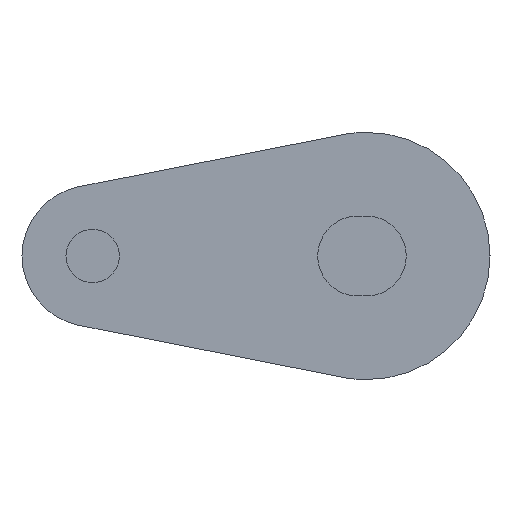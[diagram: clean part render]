
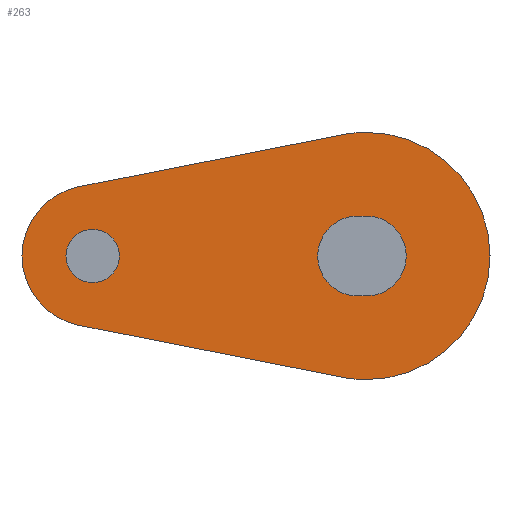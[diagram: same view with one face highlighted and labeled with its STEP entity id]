
A CAD part, left-side view. The second image highlights one B-rep face of the part: STEP entity #263.
In plain terms, the highlighted planar face has unit normal (-1, 0, 0).
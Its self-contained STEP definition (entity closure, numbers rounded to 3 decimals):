
#13 = CARTESIAN_POINT ( 'NONE',  ( -279.5, 0., 0. ) ) ;
#27 = CARTESIAN_POINT ( 'NONE',  ( -279.5, 16.274, 3.924 ) ) ;
#33 = CARTESIAN_POINT ( 'NONE',  ( -279.5, 0., 0. ) ) ;
#43 = DIRECTION ( 'NONE',  ( 0., 0., -1. ) ) ;
#45 = DIRECTION ( 'NONE',  ( 1., 0., 0. ) ) ;
#46 = CARTESIAN_POINT ( 'NONE',  ( -279.5, 0., 0. ) ) ;
#47 = DIRECTION ( 'NONE',  ( 0., 0.981, 0.194 ) ) ;
#50 = DIRECTION ( 'NONE',  ( 0., 0., -1. ) ) ;
#51 = DIRECTION ( 'NONE',  ( 1., 0., 0. ) ) ;
#71 = AXIS2_PLACEMENT_3D ( 'NONE', #500, #1031, #1032 ) ;
#81 = EDGE_CURVE ( 'NONE', #553, #570, #922, .T. ) ;
#82 = AXIS2_PLACEMENT_3D ( 'NONE', #781, #784, #783 ) ;
#83 = AXIS2_PLACEMENT_3D ( 'NONE', #13, #788, #787 ) ;
#88 = AXIS2_PLACEMENT_3D ( 'NONE', #580, #581, #582 ) ;
#110 = EDGE_CURVE ( 'NONE', #567, #618, #932, .T. ) ;
#111 = EDGE_CURVE ( 'NONE', #618, #555, #933, .T. ) ;
#113 = EDGE_CURVE ( 'NONE', #570, #567, #938, .T. ) ;
#126 = AXIS2_PLACEMENT_3D ( 'NONE', #46, #45, #43 ) ;
#144 = EDGE_CURVE ( 'NONE', #578, #598, #969, .T. ) ;
#173 = AXIS2_PLACEMENT_3D ( 'NONE', #754, #751, #752 ) ;
#177 = AXIS2_PLACEMENT_3D ( 'NONE', #1037, #1042, #1029 ) ;
#187 = AXIS2_PLACEMENT_3D ( 'NONE', #1060, #1048, #1047 ) ;
#196 = AXIS2_PLACEMENT_3D ( 'NONE', #33, #51, #50 ) ;
#202 = EDGE_CURVE ( 'NONE', #554, #553, #1000, .T. ) ;
#209 = EDGE_CURVE ( 'NONE', #599, #601, #1011, .T. ) ;
#210 = EDGE_CURVE ( 'NONE', #576, #575, #1012, .T. ) ;
#220 = EDGE_CURVE ( 'NONE', #598, #599, #1008, .T. ) ;
#227 = EDGE_CURVE ( 'NONE', #601, #578, #1021, .T. ) ;
#230 = EDGE_CURVE ( 'NONE', #555, #554, #881, .T. ) ;
#232 = EDGE_CURVE ( 'NONE', #575, #576, #892, .T. ) ;
#263 = ADVANCED_FACE ( 'NONE', ( #840, #844, #843 ), #758, .T. ) ;
#300 = ORIENTED_EDGE ( 'NONE', *, *, #81, .F. ) ;
#301 = ORIENTED_EDGE ( 'NONE', *, *, #202, .F. ) ;
#350 = EDGE_LOOP ( 'NONE', ( #408, #488 ) ) ;
#351 = EDGE_LOOP ( 'NONE', ( #411, #412, #413, #472 ) ) ;
#355 = EDGE_LOOP ( 'NONE', ( #416, #448, #390, #392, #300, #301 ) ) ;
#390 = ORIENTED_EDGE ( 'NONE', *, *, #110, .F. ) ;
#392 = ORIENTED_EDGE ( 'NONE', *, *, #113, .F. ) ;
#408 = ORIENTED_EDGE ( 'NONE', *, *, #210, .T. ) ;
#411 = ORIENTED_EDGE ( 'NONE', *, *, #144, .T. ) ;
#412 = ORIENTED_EDGE ( 'NONE', *, *, #220, .T. ) ;
#413 = ORIENTED_EDGE ( 'NONE', *, *, #209, .T. ) ;
#416 = ORIENTED_EDGE ( 'NONE', *, *, #230, .F. ) ;
#448 = ORIENTED_EDGE ( 'NONE', *, *, #111, .F. ) ;
#472 = ORIENTED_EDGE ( 'NONE', *, *, #227, .T. ) ;
#488 = ORIENTED_EDGE ( 'NONE', *, *, #232, .T. ) ;
#492 = CARTESIAN_POINT ( 'NONE',  ( -279.5, 0.5, -2.26 ) ) ;
#500 = CARTESIAN_POINT ( 'NONE',  ( -279.5, 15.5, 0. ) ) ;
#505 = DIRECTION ( 'NONE',  ( 0., -1., 0. ) ) ;
#506 = CARTESIAN_POINT ( 'NONE',  ( -279.5, 0.5, 2.26 ) ) ;
#553 = VERTEX_POINT ( 'NONE', #719 ) ;
#554 = VERTEX_POINT ( 'NONE', #717 ) ;
#555 = VERTEX_POINT ( 'NONE', #710 ) ;
#567 = VERTEX_POINT ( 'NONE', #708 ) ;
#570 = VERTEX_POINT ( 'NONE', #701 ) ;
#575 = VERTEX_POINT ( 'NONE', #695 ) ;
#576 = VERTEX_POINT ( 'NONE', #696 ) ;
#578 = VERTEX_POINT ( 'NONE', #698 ) ;
#580 = CARTESIAN_POINT ( 'NONE',  ( -279.5, 0., 0. ) ) ;
#581 = DIRECTION ( 'NONE',  ( 1., 0., 0. ) ) ;
#582 = DIRECTION ( 'NONE',  ( 0., 0., -1. ) ) ;
#598 = VERTEX_POINT ( 'NONE', #728 ) ;
#599 = VERTEX_POINT ( 'NONE', #729 ) ;
#601 = VERTEX_POINT ( 'NONE', #731 ) ;
#618 = VERTEX_POINT ( 'NONE', #688 ) ;
#624 = CARTESIAN_POINT ( 'NONE',  ( -279.5, 1.355, -6.868 ) ) ;
#688 = CARTESIAN_POINT ( 'NONE',  ( -279.5, 1.355, -6.868 ) ) ;
#695 = CARTESIAN_POINT ( 'NONE',  ( -279.5, 15.5, 1.51 ) ) ;
#696 = CARTESIAN_POINT ( 'NONE',  ( -279.5, 15.5, -1.51 ) ) ;
#698 = CARTESIAN_POINT ( 'NONE',  ( -279.5, 0.5, -2.26 ) ) ;
#701 = CARTESIAN_POINT ( 'NONE',  ( -279.5, 0., 7. ) ) ;
#708 = CARTESIAN_POINT ( 'NONE',  ( -279.5, 0., -7. ) ) ;
#710 = CARTESIAN_POINT ( 'NONE',  ( -279.5, 16.274, -3.924 ) ) ;
#717 = CARTESIAN_POINT ( 'NONE',  ( -279.5, 16.274, 3.924 ) ) ;
#719 = CARTESIAN_POINT ( 'NONE',  ( -279.5, 1.355, 6.868 ) ) ;
#728 = CARTESIAN_POINT ( 'NONE',  ( -279.5, 0.5, 2.26 ) ) ;
#729 = CARTESIAN_POINT ( 'NONE',  ( -279.5, 0., 2.26 ) ) ;
#731 = CARTESIAN_POINT ( 'NONE',  ( -279.5, 0., -2.26 ) ) ;
#751 = DIRECTION ( 'NONE',  ( -1., 0., 0. ) ) ;
#752 = DIRECTION ( 'NONE',  ( 0., 0., -1. ) ) ;
#754 = CARTESIAN_POINT ( 'NONE',  ( -279.5, 15.5, 0. ) ) ;
#758 = PLANE ( 'NONE',  #173 ) ;
#781 = CARTESIAN_POINT ( 'NONE',  ( -279.5, 15.5, 0. ) ) ;
#783 = DIRECTION ( 'NONE',  ( 0., 0., -1. ) ) ;
#784 = DIRECTION ( 'NONE',  ( 1., 0., 0. ) ) ;
#787 = DIRECTION ( 'NONE',  ( 0., 0., -1. ) ) ;
#788 = DIRECTION ( 'NONE',  ( 1., 0., 0. ) ) ;
#789 = DIRECTION ( 'NONE',  ( 0., -0.981, 0.194 ) ) ;
#840 = FACE_BOUND ( 'NONE', #351, .T. ) ;
#843 = FACE_OUTER_BOUND ( 'NONE', #355, .T. ) ;
#844 = FACE_BOUND ( 'NONE', #350, .T. ) ;
#881 = CIRCLE ( 'NONE', #71, 4. ) ;
#892 = CIRCLE ( 'NONE', #177, 1.51 ) ;
#922 = CIRCLE ( 'NONE', #88, 7. ) ;
#927 = VECTOR ( 'NONE', #47, 1000. ) ;
#932 = CIRCLE ( 'NONE', #196, 7. ) ;
#933 = LINE ( 'NONE', #624, #927 ) ;
#938 = CIRCLE ( 'NONE', #126, 7. ) ;
#969 = CIRCLE ( 'NONE', #187, 2.26 ) ;
#994 = VECTOR ( 'NONE', #789, 1000. ) ;
#1000 = LINE ( 'NONE', #27, #994 ) ;
#1008 = LINE ( 'NONE', #506, #1014 ) ;
#1011 = CIRCLE ( 'NONE', #83, 2.26 ) ;
#1012 = CIRCLE ( 'NONE', #82, 1.51 ) ;
#1014 = VECTOR ( 'NONE', #505, 1000. ) ;
#1021 = LINE ( 'NONE', #492, #1022 ) ;
#1022 = VECTOR ( 'NONE', #1039, 1000. ) ;
#1029 = DIRECTION ( 'NONE',  ( 0., 0., -1. ) ) ;
#1031 = DIRECTION ( 'NONE',  ( 1., 0., 0. ) ) ;
#1032 = DIRECTION ( 'NONE',  ( 0., 0., -1. ) ) ;
#1037 = CARTESIAN_POINT ( 'NONE',  ( -279.5, 15.5, 0. ) ) ;
#1039 = DIRECTION ( 'NONE',  ( 0., 1., 0. ) ) ;
#1042 = DIRECTION ( 'NONE',  ( 1., 0., 0. ) ) ;
#1047 = DIRECTION ( 'NONE',  ( 0., 0., -1. ) ) ;
#1048 = DIRECTION ( 'NONE',  ( 1., 0., 0. ) ) ;
#1060 = CARTESIAN_POINT ( 'NONE',  ( -279.5, 0.5, 0. ) ) ;
